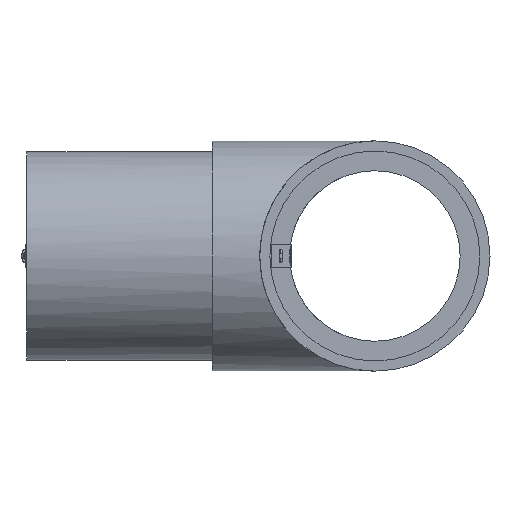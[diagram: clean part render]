
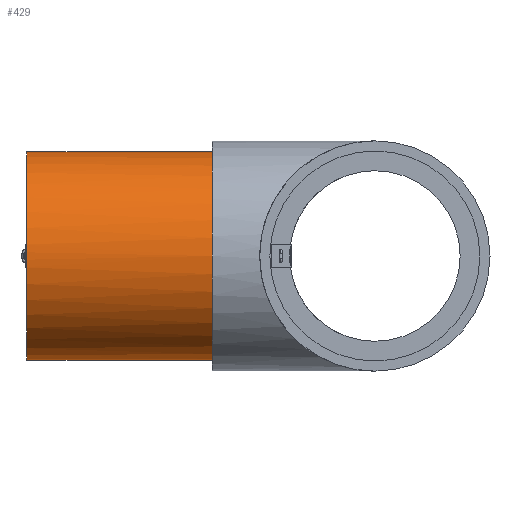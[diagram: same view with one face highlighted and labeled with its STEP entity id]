
A CAD part, left-side view. The second image highlights one B-rep face of the part: STEP entity #429.
In plain terms, the highlighted cylindrical face has radius 45 mm (diameter 90 mm), a partial arc.
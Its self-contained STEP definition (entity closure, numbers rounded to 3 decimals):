
#71 = DIRECTION ( 'NONE',  ( 0., 0., 1. ) ) ;
#73 = AXIS2_PLACEMENT_3D ( 'NONE', #368, #2648, #706 ) ;
#96 = VERTEX_POINT ( 'NONE', #1587 ) ;
#273 = AXIS2_PLACEMENT_3D ( 'NONE', #3789, #2015, #71 ) ;
#368 = CARTESIAN_POINT ( 'NONE',  ( -53.319, 94.442, 13.229 ) ) ;
#374 = VERTEX_POINT ( 'NONE', #1575 ) ;
#429 = ADVANCED_FACE ( 'NONE', ( #558 ), #3254, .T. ) ;
#452 = VERTEX_POINT ( 'NONE', #2138 ) ;
#526 = AXIS2_PLACEMENT_3D ( 'NONE', #3416, #1544, #3697 ) ;
#558 = FACE_OUTER_BOUND ( 'NONE', #2689, .T. ) ;
#706 = DIRECTION ( 'NONE',  ( 0., 0., 1. ) ) ;
#802 = VECTOR ( 'NONE', #1559, 1000. ) ;
#887 = ORIENTED_EDGE ( 'NONE', *, *, #3626, .F. ) ;
#950 = CARTESIAN_POINT ( 'NONE',  ( -53.319, -100.809, -31.771 ) ) ;
#979 = ORIENTED_EDGE ( 'NONE', *, *, #2752, .F. ) ;
#1005 = LINE ( 'NONE', #3172, #2630 ) ;
#1091 = ORIENTED_EDGE ( 'NONE', *, *, #3480, .F. ) ;
#1159 = CARTESIAN_POINT ( 'NONE',  ( -98.069, 94.442, 8.492 ) ) ;
#1208 = CARTESIAN_POINT ( 'NONE',  ( -53.319, 94.442, 13.229 ) ) ;
#1285 = CARTESIAN_POINT ( 'NONE',  ( -53.319, 94.442, 13.229 ) ) ;
#1424 = ORIENTED_EDGE ( 'NONE', *, *, #3195, .T. ) ;
#1527 = DIRECTION ( 'NONE',  ( 0., 0., 1. ) ) ;
#1544 = DIRECTION ( 'NONE',  ( 0., 1., 0. ) ) ;
#1559 = DIRECTION ( 'NONE',  ( 0., 1., 0. ) ) ;
#1575 = CARTESIAN_POINT ( 'NONE',  ( -98.04, 94.442, 8.229 ) ) ;
#1587 = CARTESIAN_POINT ( 'NONE',  ( -53.319, 14.442, 58.229 ) ) ;
#1596 = ORIENTED_EDGE ( 'NONE', *, *, #2401, .F. ) ;
#1597 = DIRECTION ( 'NONE',  ( 0., 0., 1. ) ) ;
#1669 = VERTEX_POINT ( 'NONE', #1159 ) ;
#1743 = AXIS2_PLACEMENT_3D ( 'NONE', #1208, #3391, #1527 ) ;
#1805 = AXIS2_PLACEMENT_3D ( 'NONE', #2105, #3041, #3628 ) ;
#1927 = AXIS2_PLACEMENT_3D ( 'NONE', #1285, #3472, #1597 ) ;
#1951 = DIRECTION ( 'NONE',  ( 0., -1., 0. ) ) ;
#2015 = DIRECTION ( 'NONE',  ( 0., 1., 0. ) ) ;
#2105 = CARTESIAN_POINT ( 'NONE',  ( -53.319, -100.809, 13.229 ) ) ;
#2134 = CARTESIAN_POINT ( 'NONE',  ( -98.04, 94.442, 18.229 ) ) ;
#2138 = CARTESIAN_POINT ( 'NONE',  ( -98.069, 94.442, 17.965 ) ) ;
#2179 = CARTESIAN_POINT ( 'NONE',  ( -53.319, 94.442, -31.771 ) ) ;
#2190 = ORIENTED_EDGE ( 'NONE', *, *, #3539, .F. ) ;
#2191 = CARTESIAN_POINT ( 'NONE',  ( -53.319, 14.442, -31.771 ) ) ;
#2243 = DIRECTION ( 'NONE',  ( 0., 1., 0. ) ) ;
#2355 = AXIS2_PLACEMENT_3D ( 'NONE', #3749, #1951, #3994 ) ;
#2398 = VERTEX_POINT ( 'NONE', #2191 ) ;
#2401 = EDGE_CURVE ( 'NONE', #3358, #374, #3204, .T. ) ;
#2433 = CARTESIAN_POINT ( 'NONE',  ( -53.319, 94.442, 58.229 ) ) ;
#2474 = VERTEX_POINT ( 'NONE', #2433 ) ;
#2630 = VECTOR ( 'NONE', #2243, 1000. ) ;
#2648 = DIRECTION ( 'NONE',  ( 0., -1., 0. ) ) ;
#2689 = EDGE_LOOP ( 'NONE', ( #3970, #887, #3525, #979, #1424, #1091, #2190, #1596 ) ) ;
#2752 = EDGE_CURVE ( 'NONE', #3834, #2474, #3470, .T. ) ;
#2949 = CIRCLE ( 'NONE', #1743, 45. ) ;
#3041 = DIRECTION ( 'NONE',  ( 0., 1., 0. ) ) ;
#3049 = CIRCLE ( 'NONE', #73, 45. ) ;
#3094 = EDGE_CURVE ( 'NONE', #2398, #3358, #3414, .T. ) ;
#3172 = CARTESIAN_POINT ( 'NONE',  ( -53.319, -100.809, 58.229 ) ) ;
#3195 = EDGE_CURVE ( 'NONE', #3834, #452, #3049, .T. ) ;
#3204 = CIRCLE ( 'NONE', #526, 45. ) ;
#3254 = CYLINDRICAL_SURFACE ( 'NONE', #1805, 45. ) ;
#3358 = VERTEX_POINT ( 'NONE', #2179 ) ;
#3391 = DIRECTION ( 'NONE',  ( 0., 1., 0. ) ) ;
#3414 = LINE ( 'NONE', #950, #802 ) ;
#3416 = CARTESIAN_POINT ( 'NONE',  ( -53.319, 94.442, 13.229 ) ) ;
#3417 = CIRCLE ( 'NONE', #1927, 45. ) ;
#3470 = CIRCLE ( 'NONE', #273, 45. ) ;
#3472 = DIRECTION ( 'NONE',  ( 0., 1., 0. ) ) ;
#3474 = EDGE_CURVE ( 'NONE', #96, #2474, #1005, .T. ) ;
#3480 = EDGE_CURVE ( 'NONE', #1669, #452, #3417, .T. ) ;
#3520 = CIRCLE ( 'NONE', #2355, 45. ) ;
#3525 = ORIENTED_EDGE ( 'NONE', *, *, #3474, .T. ) ;
#3539 = EDGE_CURVE ( 'NONE', #374, #1669, #2949, .T. ) ;
#3626 = EDGE_CURVE ( 'NONE', #96, #2398, #3520, .T. ) ;
#3628 = DIRECTION ( 'NONE',  ( 0., 0., 1. ) ) ;
#3697 = DIRECTION ( 'NONE',  ( 0., 0., 1. ) ) ;
#3749 = CARTESIAN_POINT ( 'NONE',  ( -53.319, 14.442, 13.229 ) ) ;
#3789 = CARTESIAN_POINT ( 'NONE',  ( -53.319, 94.442, 13.229 ) ) ;
#3834 = VERTEX_POINT ( 'NONE', #2134 ) ;
#3970 = ORIENTED_EDGE ( 'NONE', *, *, #3094, .F. ) ;
#3994 = DIRECTION ( 'NONE',  ( 0., 0., 1. ) ) ;
